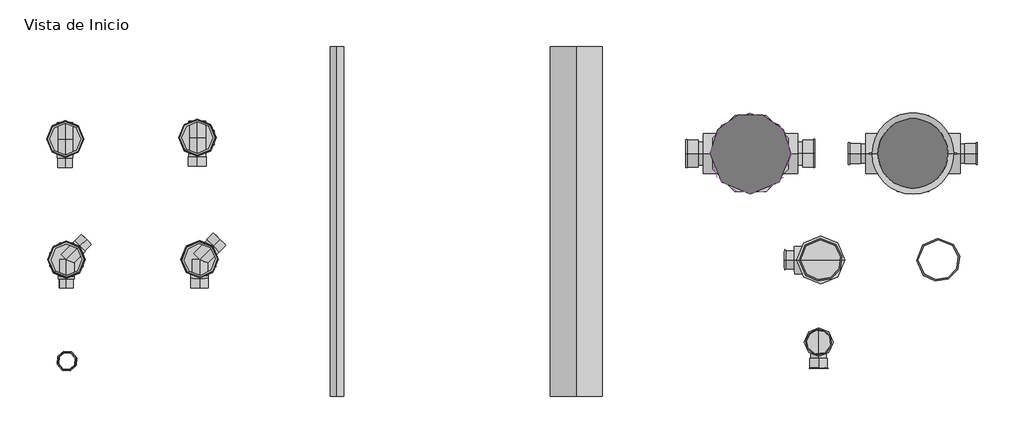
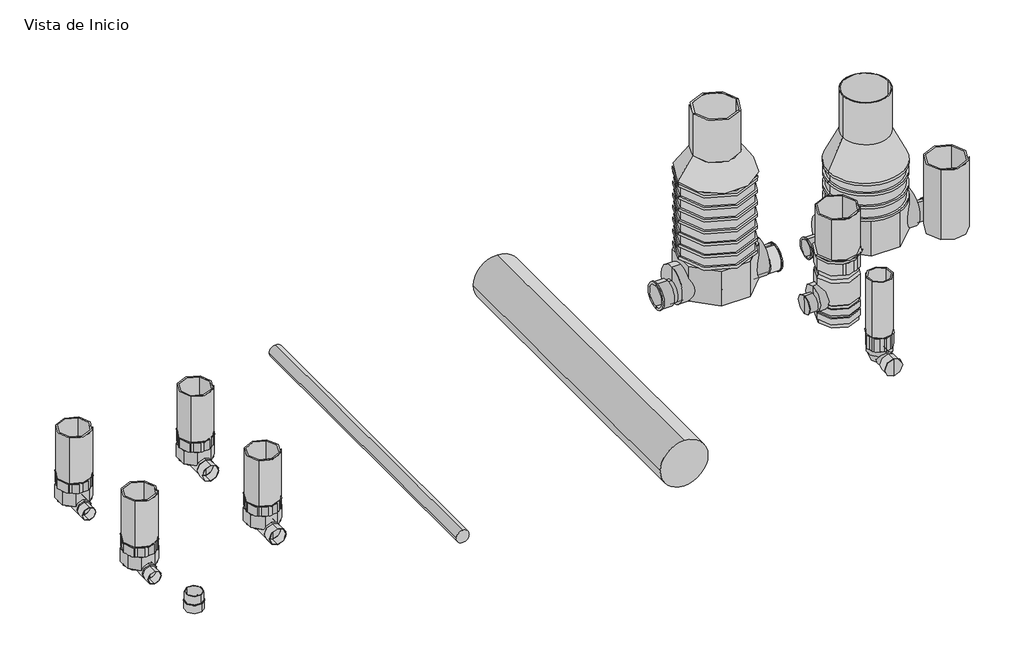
# One storey, incomplete: 20 pipe fittings, 2 pipe segments.
"""IFC4 building model written with IfcOpenShell, lengths in millimetres."""

from ifc_helpers import new_model, si_unit, point, frame, frame_2d, origin, place, context, project, spatial, circle_curve, trimmed, segment, composite_curve, outline, extrude, transform, mapped, element, save
from components import pipe_fitting_116cf6c6, var_51ffa7ba, var_048a463b, var_684be0d4, var_44074eec, var_989bb4be, var_1f8eb8e2, var_3774abd7, var_4e56a27c, var_e3ae8edc, var_c8cfa985, var_65483fa7, var_e1b74d34, var_ff645995, var_48639e49, var_5d693930

model = new_model("IFC4")

# Units and contexts
model_context = context("Model", 3, world=origin())
ifc_project = project(units=[si_unit("LENGTHUNIT", "METRE", prefix="MILLI")], contexts=[model_context])

# Site, building, storey
site = spatial("IfcSite", under=ifc_project)
building = spatial("IfcBuilding", under=site)
storey = spatial("IfcBuildingStorey", under=building, Name="Vista de Inicio", Elevation=0.0)

# Pipe fittings
placement = place(None, origin())
pipe_fitting_shape = pipe_fitting_116cf6c6(model_context)
element("IfcPipeFitting", 1, ObjectType="PlastigamaWavin_Unionesdetubería_NovafortSumideros : Sumidero TipoI 220-335mm", at=placement, inside=storey, context=model_context, shape_type="MappedRepresentation", body=[
    mapped(pipe_fitting_shape, transform((6312.9045247, -6999.0498419, 0.0), x_axis=(1.0, 0.0, 0.0), y_axis=(0.0, 1.0, 0.0), z_axis=(0.0, 0.0, 1.0))),
])
var_shape = var_51ffa7ba(model_context)
element("IfcPipeFitting", 2, ObjectType="PlastigamaWavin_Unionesdetubería_NovafortZNoUsarManholeElevador : Var.", at=placement, inside=storey, context=model_context, shape_type="MappedRepresentation", body=[
    mapped(var_shape, transform((5428.7457319, -5661.2958372, 497.49), x_axis=(1.0, 0.0, 0.0), y_axis=(0.0, 1.0, 0.0), z_axis=(0.0, 0.0, 1.0))),
])
element("IfcPipeFitting", 3, ObjectType="PlastigamaWavin_Unionesdetubería_NovafortZNoUsarManholeElevador : Var.", at=placement, inside=storey, context=model_context, shape_type="MappedRepresentation", body=[
    mapped(var_shape, transform((5428.7457319, -5661.2958372, 1017.5), x_axis=(1.0, 0.0, 0.0), y_axis=(0.0, 1.0, 0.0), z_axis=(0.0, 0.0, 1.0))),
])
var_2_shape = var_048a463b(model_context)
element("IfcPipeFitting", 4, ObjectType="PlastigamaWavin_Unionesdetubería_NovafortZNoUsarManholeCono : Var.", at=placement, inside=storey, context=model_context, shape_type="MappedRepresentation", body=[
    mapped(var_2_shape, transform((5428.7457319, -5661.2958372, 1577.51), x_axis=(1.0, 0.0, 0.0), y_axis=(0.0, 1.0, 0.0), z_axis=(0.0, 0.0, 1.0))),
])
var_3_shape = var_684be0d4(model_context)
element("IfcPipeFitting", 5, ObjectType="PlastigamaWavin_Unionesdetubería_NovafortManholeIntegrado : Var.", at=placement, inside=storey, context=model_context, shape_type="MappedRepresentation", body=[
    mapped(var_3_shape, transform((7470.9747308, -5661.2958372, 0.0), x_axis=(1.0, 0.0, 0.0), y_axis=(0.0, 1.0, 0.0), z_axis=(0.0, 0.0, 1.0))),
])
var_4_shape = var_44074eec(model_context)
element("IfcPipeFitting", 6, ObjectType="PlastigamaWavin_Unionesdetubería_NovafortCajaAceraArranque175mm : Var.", at=placement, inside=storey, context=model_context, shape_type="MappedRepresentation", body=[
    mapped(var_4_shape, transform((-3184.8386156, -5478.6012314, 0.0), x_axis=(1.0, 0.0, 0.0), y_axis=(0.0, 1.0, 0.0), z_axis=(0.0, 0.0, 1.0))),
])
var_5_shape = var_989bb4be(model_context)
element("IfcPipeFitting", 7, ObjectType="PlastigamaWavin_Unionesdetubería_NovafortCajaAceraArranque220mm : Var.", at=placement, inside=storey, context=model_context, shape_type="MappedRepresentation", body=[
    mapped(var_5_shape, transform((-1523.5453528, -5460.88077, 0.0), x_axis=(1.0, 0.0, 0.0), y_axis=(0.0, 1.0, 0.0), z_axis=(0.0, 0.0, 1.0))),
])
var_6_shape = var_1f8eb8e2(model_context)
element("IfcPipeFitting", 8, ObjectType="PlastigamaWavin_Unionesdetubería_NovafortZNoUsarElevador : Var.", at=placement, inside=storey, context=model_context, shape_type="MappedRepresentation", body=[
    mapped(var_6_shape, transform((-3184.5039163, -5478.9326169, 69.2453589), x_axis=(0.0, 0.0, 1.0), y_axis=(-0.7035801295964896, -0.7106159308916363, 0.0), z_axis=(0.7106159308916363, -0.7035801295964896, 0.0))),
])
element("IfcPipeFitting", 9, ObjectType="PlastigamaWavin_Unionesdetubería_NovafortZNoUsarElevador : Var.", at=placement, inside=storey, context=model_context, shape_type="MappedRepresentation", body=[
    mapped(var_6_shape, transform((-1524.0605994, -5460.3706248, 69.2453589), x_axis=(0.0, 0.0, 1.0), y_axis=(-0.7035801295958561, -0.7106159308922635, 0.0), z_axis=(0.7106159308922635, -0.7035801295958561, 0.0))),
])
element("IfcPipeFitting", 10, ObjectType="PlastigamaWavin_Unionesdetubería_NovafortZNoUsarElevador : Var.", at=placement, inside=storey, context=model_context, shape_type="MappedRepresentation", body=[
    mapped(var_6_shape, transform((-1494.9886722, -6993.2403712, 69.2453589), x_axis=(0.0, 0.0, 1.0), y_axis=(-0.6690016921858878, -0.7432608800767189, 0.0), z_axis=(0.7432608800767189, -0.6690016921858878, 0.0))),
])
element("IfcPipeFitting", 11, ObjectType="PlastigamaWavin_Unionesdetubería_NovafortZNoUsarElevador : Var.", at=placement, inside=storey, context=model_context, shape_type="MappedRepresentation", body=[
    mapped(var_6_shape, transform((-3169.8833986, -6996.596432, 69.2453589), x_axis=(0.0, 0.0, 1.0), y_axis=(-0.7035801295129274, -0.7106159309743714, 0.0), z_axis=(0.7106159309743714, -0.7035801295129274, 0.0))),
])
var_7_shape = var_3774abd7(model_context)
element("IfcPipeFitting", 12, ObjectType="PlastigamaWavin_Unionesdetubería_NovafortZNoUsarElevador : Var.", at=placement, inside=storey, context=model_context, shape_type="MappedRepresentation", body=[
    mapped(var_7_shape, transform((6312.8911289, -6999.0369245, 832.7444956), x_axis=(0.0, 0.0, 1.0), y_axis=(-0.6941355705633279, -0.7198442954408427, 0.0), z_axis=(0.7198442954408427, -0.6941355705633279, 0.0))),
])
var_8_shape = var_4e56a27c(model_context)
element("IfcPipeFitting", 13, ObjectType="PlastigamaWavin_Unionesdetubería_NovafortZNoUsarElevador : Var.", at=placement, inside=storey, context=model_context, shape_type="MappedRepresentation", body=[
    mapped(var_8_shape, transform((7791.0763998, -6999.0369245, 832.7444956), x_axis=(0.0, 0.0, 1.0), y_axis=(-0.6941355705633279, -0.7198442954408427, 0.0), z_axis=(0.7198442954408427, -0.6941355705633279, 0.0))),
])
var_9_shape = var_e3ae8edc(model_context)
element("IfcPipeFitting", 14, ObjectType="PlastigamaWavin_Unionesdetubería_NovafortZNoUsarSistemaTILElevador : Var.", at=placement, inside=storey, context=model_context, shape_type="MappedRepresentation", body=[
    mapped(var_9_shape, transform((6287.8442768, -8036.221054, 300.2453589), x_axis=(0.0, 0.0, 1.0), y_axis=(0.8750794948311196, 0.48397921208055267, 0.0), z_axis=(-0.48397921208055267, 0.8750794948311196, 0.0))),
])
var_10_shape = var_c8cfa985(model_context)
element("IfcPipeFitting", 15, ObjectType="PlastigamaWavin_Unionesdetubería_NovafortCajasAcera175mm : Var.", at=placement, inside=storey, context=model_context, shape_type="MappedRepresentation", body=[
    mapped(var_10_shape, transform((-3169.8817767, -6996.5980378, 0.0), x_axis=(1.0, 0.0, 0.0), y_axis=(0.0, 1.0, 0.0), z_axis=(0.0, 0.0, 1.0))),
])
var_11_shape = var_65483fa7(model_context)
element("IfcPipeFitting", 16, ObjectType="PlastigamaWavin_Unionesdetubería_NovafortCajasAcera220mm : Var.", at=placement, inside=storey, context=model_context, shape_type="MappedRepresentation", body=[
    mapped(var_11_shape, transform((-1494.9799364, -6993.2482342, 0.0), x_axis=(1.0, 0.0, 0.0), y_axis=(0.0, 1.0, 0.0), z_axis=(0.0, 0.0, 1.0))),
])
var_12_shape = var_e1b74d34(model_context)
element("IfcPipeFitting", 17, ObjectType="PlastigamaWavin_Unionesdetubería_NovafortSistemaTIL : Var.", at=placement, inside=storey, context=model_context, shape_type="MappedRepresentation", body=[
    mapped(var_12_shape, transform((6287.4257183, -8035.4642612, 0.0), x_axis=(0.0, -1.0, 0.0), y_axis=(1.0, 0.0, 0.0), z_axis=(0.0, 0.0, 1.0))),
])
var_13_shape = var_ff645995(model_context)
element("IfcPipeFitting", 18, ObjectType="PlastigamaWavin_Unionesdetubería_NovafortCauchoparaPerforarCajas : Var.", at=placement, inside=storey, context=model_context, shape_type="MappedRepresentation", body=[
    mapped(var_13_shape, transform((-3163.8717071, -8271.4835618, 5.0), x_axis=(0.3162277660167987, -0.9486832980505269, 0.0), y_axis=(0.9486832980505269, 0.3162277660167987, 0.0), z_axis=(0.0, 0.0, 1.0))),
])
var_14_shape = var_48639e49(model_context)
element("IfcPipeFitting", 19, ObjectType="PlastigamaWavin_Unionesdetubería_NovafortZNoUsarCaucho : Var.", at=placement, inside=storey, context=model_context, shape_type="MappedRepresentation", body=[
    mapped(var_14_shape, transform((-3163.8717071, -8271.4835618, 5.0), x_axis=(0.3162277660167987, -0.9486832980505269, 0.0), y_axis=(0.9486832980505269, 0.3162277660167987, 0.0), z_axis=(0.0, 0.0, 1.0))),
])
var_15_shape = var_5d693930(model_context)
element("IfcPipeFitting", 20, ObjectType="PlastigamaWavin_Unionesdetubería_NovafortManholeMódular : Var.", at=placement, inside=storey, context=model_context, shape_type="MappedRepresentation", body=[
    mapped(var_15_shape, transform((5428.7457319, -5661.2958372, 0.0), x_axis=(1.0, 0.0, 0.0), y_axis=(0.0, 1.0, 0.0), z_axis=(0.0, 0.0, 1.0))),
])

# Pipe segments
element("IfcPipeSegment", 21, ObjectType="PlastigamaWavin_Tuberias_Novafort-S6-S5_125a975mm", at=placement, inside=storey, context=model_context, shape_type="SweptSolid", body=[
    extrude(outline(composite_curve([segment(trimmed(circle_curve(frame_2d((0.0, 3239.8260283)), 325.0), [point((0.0, 2914.8260283))], [point((-325.0, 3239.8260283))], False, "CARTESIAN"), True, "CONTINUOUS"), segment(trimmed(circle_curve(frame_2d((0.0, 3239.8260283)), 325.0), [point((-325.0, 3239.8260283))], [point((0.0, 3564.8260283))], False, "CARTESIAN"), True, "CONTINUOUS"), segment(trimmed(circle_curve(frame_2d((0.0, 3239.8260283)), 325.0), [point((0.0, 3564.8260283))], [point((325.0, 3239.8260283))], False, "CARTESIAN"), True, "CONTINUOUS"), segment(trimmed(circle_curve(frame_2d((0.0, 3239.8260283)), 325.0), [point((325.0, 3239.8260283))], [point((0.0, 2914.8260283))], False, "CARTESIAN"), True, "CONTINUOUS")], self_intersect=False)), frame((0.0, -8713.8371588, 0.0), z_axis=(0.0, 1.0, 0.0), x_axis=(0.0, 0.0, 1.0)), (0.0, 0.0, 1.0), 4400.0),
])
element("IfcPipeSegment", 22, ObjectType="PlastigamaWavin_Tuberias_Novafort-S6-S5_125a975mm", at=placement, inside=storey, context=model_context, shape_type="SweptSolid", body=[
    extrude(outline(composite_curve([segment(trimmed(circle_curve(frame_2d((0.0, 231.1360964)), 87.5), [point((0.0, 143.6360964))], [point((-87.5, 231.1360964))], False, "CARTESIAN"), True, "CONTINUOUS"), segment(trimmed(circle_curve(frame_2d((0.0, 231.1360964)), 87.5), [point((-87.5, 231.1360964))], [point((0.0, 318.6360964))], False, "CARTESIAN"), True, "CONTINUOUS"), segment(trimmed(circle_curve(frame_2d((0.0, 231.1360964)), 87.5), [point((0.0, 318.6360964))], [point((87.5, 231.1360964))], False, "CARTESIAN"), True, "CONTINUOUS"), segment(trimmed(circle_curve(frame_2d((0.0, 231.1360964)), 87.5), [point((87.5, 231.1360964))], [point((0.0, 143.6360964))], False, "CARTESIAN"), True, "CONTINUOUS")], self_intersect=False)), frame((0.0, -8713.8371588, 0.0), z_axis=(0.0, 1.0, 0.0), x_axis=(0.0, 0.0, 1.0)), (0.0, 0.0, 1.0), 4400.0),
])

save(model, "model.ifc")
